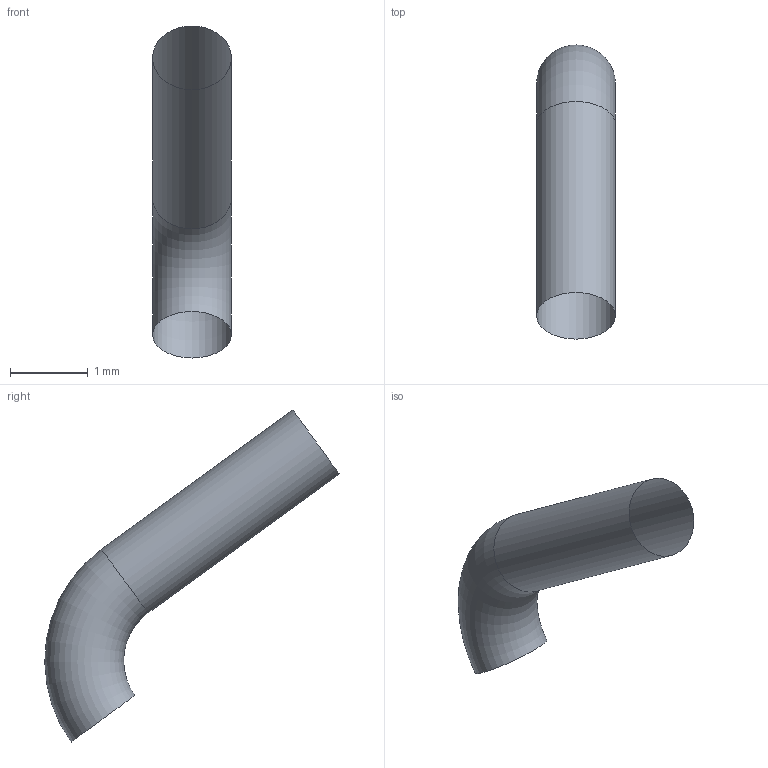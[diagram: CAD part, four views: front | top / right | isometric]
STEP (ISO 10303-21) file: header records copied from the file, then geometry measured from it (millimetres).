
FILE_DESCRIPTION(/* description */ ('STEP AP242 Edition 2','CAx-IF Rec.Pracs.---Representation and Presentation of Product Manufacturing Information (PMI)---4.0---2014-10-13','CAx-IF Rec.Pracs.---3D Tessellated Geometry---0.4---2014-09-14','2;1','CAx-IF Rec.Pracs.---User Defined Attributes---1.5---2016-08-15'),/* implementation_level */ '2;1');
FILE_NAME(/* name */ 'Part Studio 1 - Surface 37',/* time_stamp */ '2026-11-25T23:28:52Z',/* author */ (''),/* organization */ (''),/* preprocessor_version */ 'ST-DEVELOPER v20',/* originating_system */ 'ONSHAPE BY PTC INC, 1.224',/* authorisation */ ' ');
FILE_SCHEMA (('AP242_MANAGED_MODEL_BASED_3D_ENGINEERING_MIM_LF { 1 0 10303 442 3 1 4 }'));
Length unit declared in the file: metre
Products named in the file (1): NONE
Bounding box: 1.02 x 3.79 x 4.28 mm (x, y, z)
Surface area: 16.1 mm2 (no closed solid volume)
Topology: 0 solids, 1 shells, 2 faces, 5 edges, 3 vertices
Faces by surface type: torus 1, cylinder 1
Full cylindrical faces by diameter (mm): 1.016 x1
Entity records: 69 total; most frequent: DIRECTION 12, CARTESIAN_POINT 9, AXIS2_PLACEMENT_3D 6, ORIENTED_EDGE 4, EDGE_LOOP 4, FACE_BOUND 4, EDGE_CURVE 3, VERTEX_POINT 3
